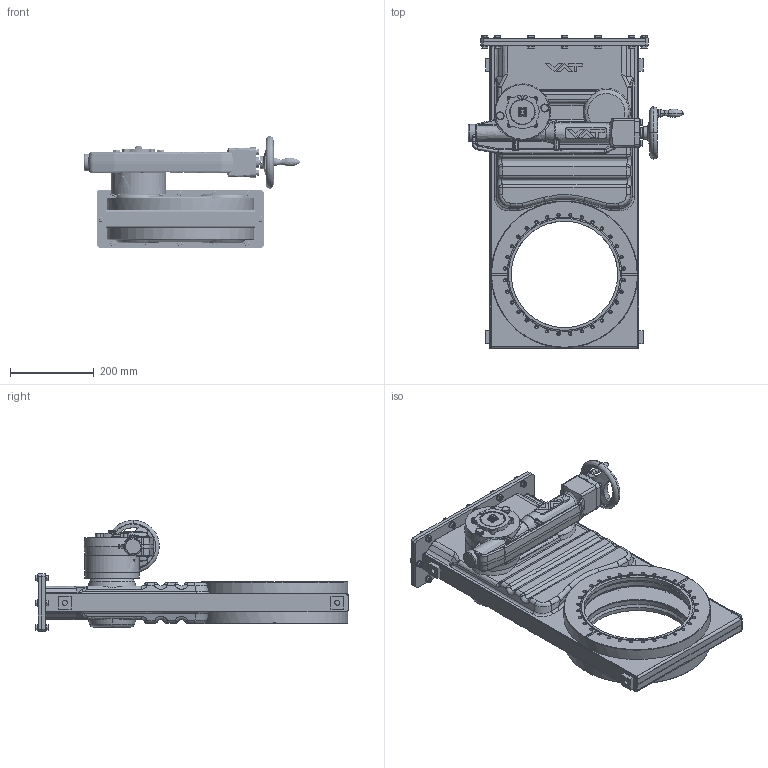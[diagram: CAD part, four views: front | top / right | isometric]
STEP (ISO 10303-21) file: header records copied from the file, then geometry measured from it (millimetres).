
FILE_DESCRIPTION((''),'2;1');
FILE_NAME('O:\MT\MT\Systeme\Cad\Datenexporte\www_vat_ch\236432.stp','2005-08-02T07:05:13',('User'),('SDRC'),'I-DEAS Master Series 9','UNIX','Yes');
FILE_SCHEMA(('CONFIG_CONTROL_DESIGN'));
Length unit declared in the file: millimetre
Assembly tree (85 placements, depth 0):
Bounding box: 514.9 x 746.4 x 265.88 mm (x, y, z)
Volume: 6998920.5 mm3; surface area: 2051016.1 mm2
Topology: 119 solids, 119 shells, 2393 faces, 5459 edges, 3416 vertices
Faces by surface type: bspline 2393
Entity records: 67537 total; most frequent: CARTESIAN_POINT 39753, ORIENTED_EDGE 7408, EDGE_CURVE 3704, VERTEX_POINT 2299, EDGE_LOOP 1831, B_SPLINE_CURVE_WITH_KNOTS 1635, FACE_OUTER_BOUND 1587, ADVANCED_FACE 1587
